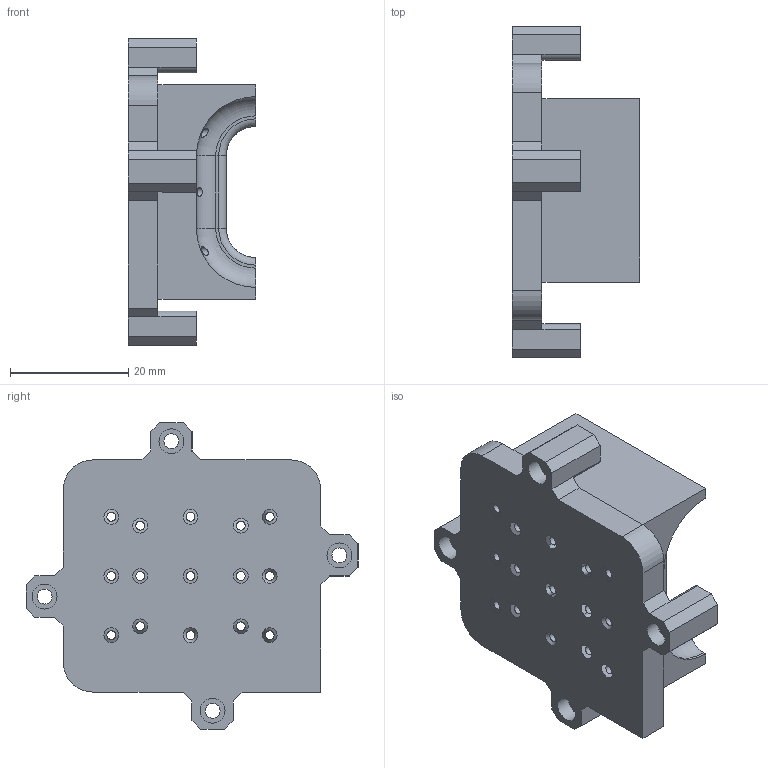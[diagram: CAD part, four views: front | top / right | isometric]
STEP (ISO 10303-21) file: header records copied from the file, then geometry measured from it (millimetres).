
FILE_DESCRIPTION(/* description */ (''),/* implementation_level */ '2;1');
FILE_NAME(/* name */ 'Plug.stp',/* time_stamp */ '2025-08-17T17:04:56+02:00',/* author */ ('MehdiBelhadj'),/* organization */ (''),/* preprocessor_version */ 'ST-DEVELOPER v20.1',/* originating_system */ 'Autodesk Inventor 2026',/* authorisation */ '');
FILE_SCHEMA (('AUTOMOTIVE_DESIGN { 1 0 10303 214 3 1 1 }'));
Length unit declared in the file: millimetre
Products named in the file (1): Plug_1
Bounding box: 21.5 x 56.1 x 51.83 mm (x, y, z)
Volume: 22133.8 mm3; surface area: 8963.6 mm2
Topology: 1 solids, 1 shells, 150 faces, 398 edges, 255 vertices
Faces by surface type: plane 67, cylinder 50, cone 17, torus 16
Full cylindrical faces by diameter (mm): 1.5 x15, 2.5 x4, 4.2 x4
Entity records: 5325 total; most frequent: CARTESIAN_POINT 1246, DIRECTION 815, ORIENTED_EDGE 796, EDGE_CURVE 398, AXIS2_PLACEMENT_3D 290, VERTEX_POINT 255, LINE 235, VECTOR 235
